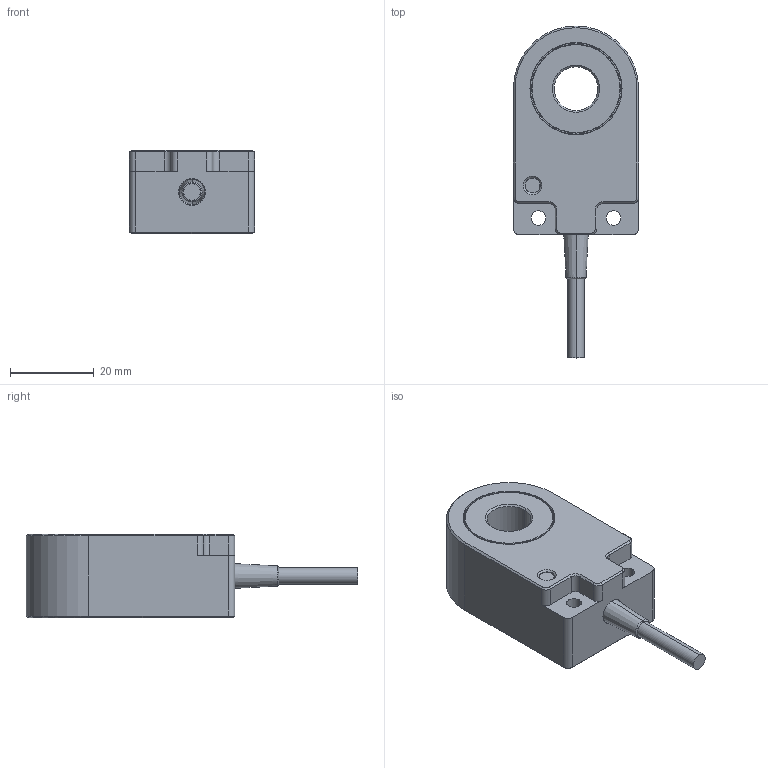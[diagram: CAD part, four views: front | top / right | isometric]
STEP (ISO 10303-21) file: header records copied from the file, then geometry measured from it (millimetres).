
FILE_DESCRIPTION (( 'STEP AP203' ), '1' );
FILE_NAME ('TH10.STEP', '2016-06-30T08:06:53', ( '' ), ( '' ), 'SwSTEP 2.0', 'SolidWorks 2013', '' );
FILE_SCHEMA (( 'CONFIG_CONTROL_DESIGN' ));
Length unit declared in the file: millimetre
Products named in the file (1): TH10
Bounding box: 30 x 79.5 x 20 mm (x, y, z)
Volume: 25686.3 mm3; surface area: 7253.9 mm2
Topology: 2 solids, 2 shells, 100 faces, 220 edges, 136 vertices
Faces by surface type: cylinder 37, plane 37, cone 24, torus 2
Entity records: 2841 total; most frequent: DIRECTION 528, CARTESIAN_POINT 457, ORIENTED_EDGE 440, EDGE_CURVE 220, AXIS2_PLACEMENT_3D 207, VERTEX_POINT 136, EDGE_LOOP 118, LINE 114
